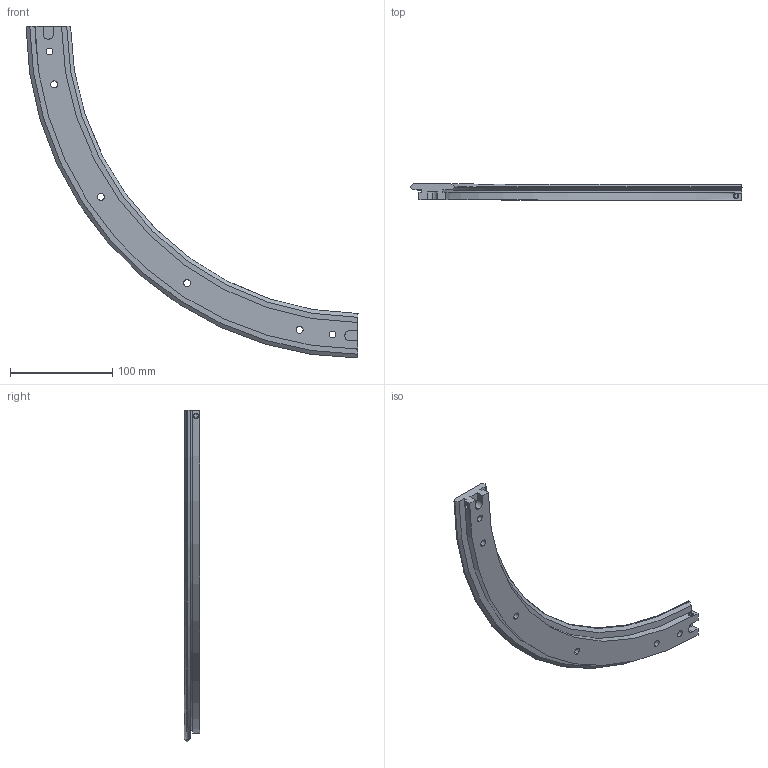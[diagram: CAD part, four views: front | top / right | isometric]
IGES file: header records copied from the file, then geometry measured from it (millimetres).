
Start section: 3D InterOp IGES (v. 2019 1.0.2), Spatial Corp. Copyright (c) 1999-2017.
Global section: file name: TR44 612 R90.igs; native system: Spatial Corp.; preprocessor: 3D InterOp GENERIC/IGES 3.0; author: Noname; organization: Noname; date: 20220628.160222; units: millimetre
Bounding box: 325.29 x 15.5 x 325.29 mm (x, y, z)
Surface area: 61196.3 mm2 (no closed solid volume)
Topology: 0 solids, 0 shells, 98 faces, 492 edges, 492 vertices
Faces by surface type: extrusion 52, revolution 46
